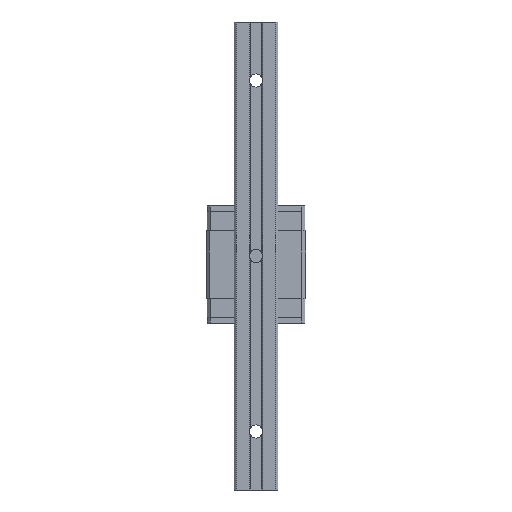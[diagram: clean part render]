
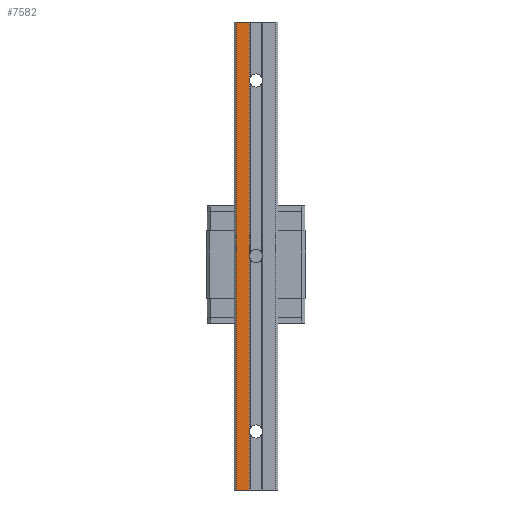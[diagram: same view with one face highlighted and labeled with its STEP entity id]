
A CAD part, front view. The second image highlights one B-rep face of the part: STEP entity #7582.
In plain terms, the highlighted planar face has unit normal (0, -1, 0).
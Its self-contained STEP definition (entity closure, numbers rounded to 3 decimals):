
#7019=PLANE('',#22494);
#7582=ADVANCED_FACE('',(#8654),#7019,.T.);
#8654=FACE_OUTER_BOUND('',#9483,.T.);
#9483=EDGE_LOOP('',(#11023,#11024,#11025,#11026));
#11023=ORIENTED_EDGE('',*,*,#17198,.T.);
#11024=ORIENTED_EDGE('',*,*,#17156,.F.);
#11025=ORIENTED_EDGE('',*,*,#17199,.F.);
#11026=ORIENTED_EDGE('',*,*,#17124,.T.);
#15578=VERTEX_POINT('',#27632);
#15579=VERTEX_POINT('',#27634);
#15606=VERTEX_POINT('',#27694);
#15607=VERTEX_POINT('',#27696);
#17124=EDGE_CURVE('',#15579,#15578,#19453,.T.);
#17156=EDGE_CURVE('',#15606,#15607,#19475,.T.);
#17198=EDGE_CURVE('',#15578,#15607,#19500,.T.);
#17199=EDGE_CURVE('',#15579,#15606,#19501,.T.);
#19453=LINE('',#27633,#20896);
#19475=LINE('',#27695,#20918);
#19500=LINE('',#27778,#20943);
#19501=LINE('',#27780,#20944);
#20896=VECTOR('',#23676,1.);
#20918=VECTOR('',#23722,1.);
#20943=VECTOR('',#23815,1.);
#20944=VECTOR('',#23818,1.);
#22494=AXIS2_PLACEMENT_3D('',#27781,#23819,#23820);
#23676=DIRECTION('',(-1.,0.,0.));
#23722=DIRECTION('',(-1.,0.,0.));
#23815=DIRECTION('',(0.,0.,-1.));
#23818=DIRECTION('',(0.,0.,-1.));
#23819=DIRECTION('',(0.,-1.,0.));
#23820=DIRECTION('',(-1.,0.,0.));
#27632=CARTESIAN_POINT('',(-6.8,-24.,100.));
#27633=CARTESIAN_POINT('',(-2.35,-24.,100.));
#27634=CARTESIAN_POINT('',(-2.35,-24.,100.));
#27694=CARTESIAN_POINT('',(-2.35,-24.,-60.));
#27695=CARTESIAN_POINT('',(-2.35,-24.,-60.));
#27696=CARTESIAN_POINT('',(-6.8,-24.,-60.));
#27778=CARTESIAN_POINT('',(-6.8,-24.,100.));
#27780=CARTESIAN_POINT('',(-2.35,-24.,100.));
#27781=CARTESIAN_POINT('',(-2.35,-24.,50.));
